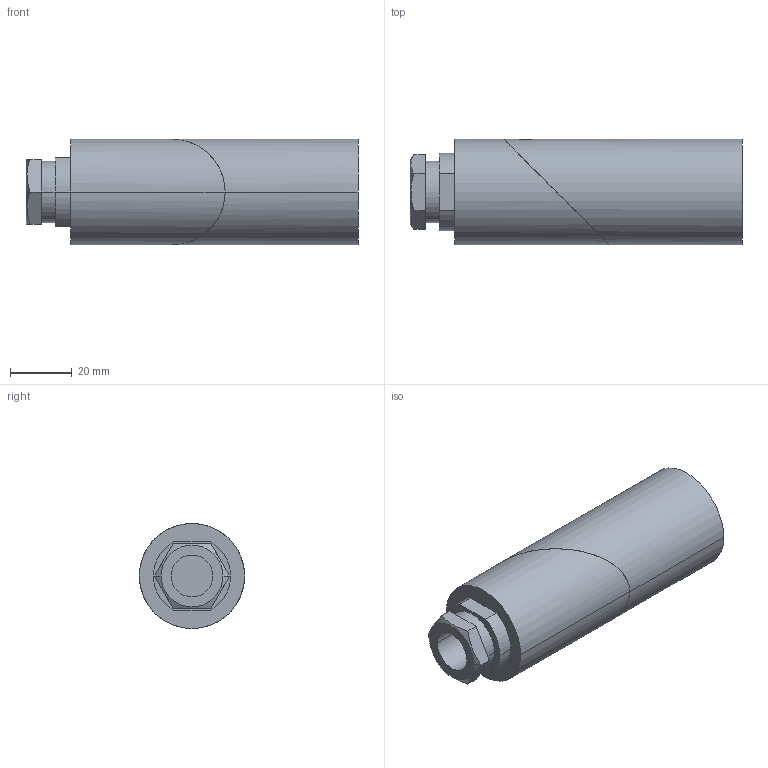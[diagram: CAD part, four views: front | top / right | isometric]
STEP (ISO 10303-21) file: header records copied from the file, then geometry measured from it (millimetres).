
FILE_DESCRIPTION( ( '' ), '1' );
FILE_NAME( '//partserver001.servicenet/client_exchange/iodir/jobs/output/wkb10559745_no0/STEP/ib51330_2_03.stp', '2008-05-13T09:24:22', ( '' ), ( '' ), ' ', ' ', ' ' );
FILE_SCHEMA( ( 'CONFIG_CONTROL_DESIGN' ) );
Length unit declared in the file: millimetre
Products named in the file (2): 1; 2
Bounding box: 107.4 x 34 x 34 mm (x, y, z)
Volume: 88170.9 mm3; surface area: 16003.9 mm2
Topology: 2 solids, 2 shells, 33 faces, 73 edges, 48 vertices
Faces by surface type: plane 17, cylinder 14, cone 2
Entity records: 1063 total; most frequent: CARTESIAN_POINT 235, DIRECTION 163, ORIENTED_EDGE 146, EDGE_CURVE 73, AXIS2_PLACEMENT_3D 64, VERTEX_POINT 48, EDGE_LOOP 37, LINE 35
